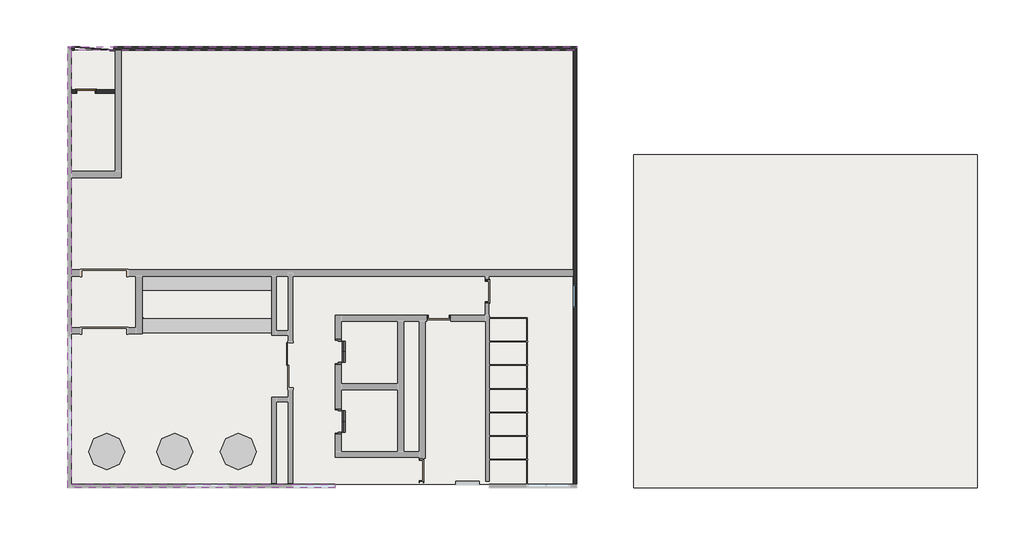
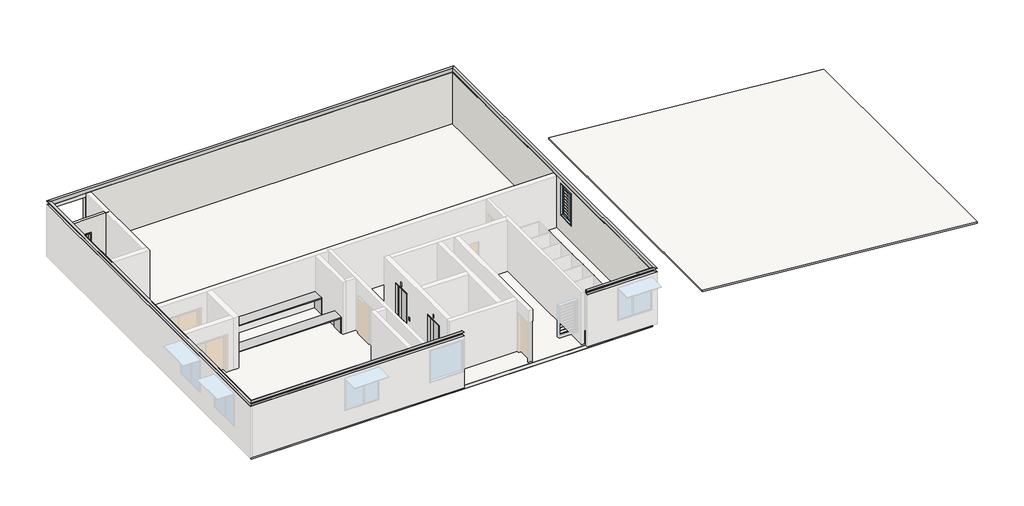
# One storey, part 2 of 2: 5 furniture elements, 4 proxies, 3 walls, 2 slabs, 1 door, 1 railing, 1 roof, 1 window.
"""IFC4 building model written with IfcOpenShell, lengths in millimetres."""

from ifc_helpers import new_model, si_unit, point, frame, frame_2d, origin, place, context, project, spatial, polyline, circle_curve, ellipse_curve, trimmed, segment, composite_curve, outline, extrude, faceted_brep, transform, mapped, element, save
from ifc_brep_helpers import plane_surface, revolved_surface, advanced_brep
from components import lift_single_entry_gen_type1_208d8e88, swing_metal_frame_single_dor_504ee371, furniture_600_deep_no_overhang_b67c900d, table_dining_round_w_chairs_fur1_1525mm_diameter_d4790072, window_louvre_window_louvre_105a682d

model = new_model("IFC4")

# Units and contexts
model_context = context("Model", 3, world=origin())
ifc_project = project(units=[si_unit("LENGTHUNIT", "METRE", prefix="MILLI")], contexts=[model_context])

# Site, building, storey
site = spatial("IfcSite", under=ifc_project)
building = spatial("IfcBuilding", under=site)
storey = spatial("IfcBuildingStorey", under=building, Name="5階", Elevation=42300.0)

# Proxies
placement = place(None, origin())
element("IfcBuildingElementProxy", 1, Name="Slab Edge_PFC'", ObjectType="Slab Edge_PFC'", at=placement, inside=storey, context=model_context, shape_type="AdvancedBrep", body=[
    advanced_brep(
    [(2519.6057353, 18560.0, 45400.0), (2519.6057353, 18560.0, 45200.0), (2369.6057353, 18710.0, 45200.0), (2369.6057353, 18710.0, 45212.0), (2501.6057353, 18578.0, 45212.0), (2513.6057353, 18566.0, 45224.0), (2513.6057353, 18566.0, 45376.0), (2501.6057353, 18578.0, 45388.0), (2369.6057353, 18710.0, 45388.0), (2369.6057353, 18710.0, 45400.0), (2519.6057353, 189.0898177, 45400.0), (2519.6057353, 189.0898177, 45200.0), (2369.6057353, 39.0898177, 45200.0), (2369.6057353, 39.0898177, 45212.0), (2501.6057353, 171.0898177, 45212.0), (2513.6057353, 183.0898177, 45224.0), (2513.6057353, 183.0898177, 45376.0), (2501.6057353, 171.0898177, 45388.0), (2369.6057353, 39.0898177, 45388.0), (2369.6057353, 39.0898177, 45400.0), (13694.6062665, 189.0898177, 45200.0), (13694.6062665, 189.0898177, 45400.0), (13694.6062665, 39.0898177, 45400.0), (13694.6062665, 39.0898177, 45388.0), (13694.6062665, 171.0898177, 45388.0), (13694.6062665, 183.0898177, 45376.0), (13694.6062665, 183.0898177, 45224.0), (13694.6062665, 171.0898177, 45212.0), (13694.6062665, 39.0898177, 45212.0), (13694.6062665, 39.0898177, 45200.0)],
    [
        (0, 1),
        (1, 2),
        (2, 3),
        (3, 4),
        (4, 5, ellipse_curve(frame((2501.6057353, 18578.0, 45224.0), z_axis=(-0.7071067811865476, -0.7071067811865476, 0.0), x_axis=(0.7071067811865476, -0.7071067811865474, 0.0)), 16.9705627, 12.0)),
        (5, 6),
        (6, 7, ellipse_curve(frame((2501.6057353, 18578.0, 45376.0), z_axis=(-0.7071067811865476, -0.7071067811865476, 0.0), x_axis=(0.7071067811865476, -0.7071067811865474, 0.0)), 16.9705627, 12.0)),
        (7, 8),
        (8, 9),
        (9, 0),
        (0, 10),
        (10, 11),
        (11, 1),
        (11, 12),
        (12, 2),
        (12, 13),
        (13, 3),
        (13, 14),
        (14, 4),
        (14, 15, ellipse_curve(frame((2501.6057353, 171.0898177, 45224.0), z_axis=(0.7071067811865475, -0.7071067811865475, 0.0), x_axis=(-0.7071067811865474, -0.7071067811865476, 0.0)), 16.9705627, 12.0)),
        (15, 5),
        (15, 16),
        (16, 6),
        (16, 17, ellipse_curve(frame((2501.6057353, 171.0898177, 45376.0), z_axis=(0.7071067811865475, -0.7071067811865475, 0.0), x_axis=(-0.7071067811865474, -0.7071067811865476, 0.0)), 16.9705627, 12.0)),
        (17, 7),
        (17, 18),
        (18, 8),
        (18, 19),
        (19, 9),
        (19, 10),
        (20, 21),
        (21, 22),
        (22, 23),
        (23, 24),
        (24, 25, circle_curve(frame((13694.6062665, 171.0898177, 45376.0), z_axis=(-1.0, 0.0, 0.0), x_axis=(0.0, -1.0, 0.0)), 12.0)),
        (25, 26),
        (26, 27, circle_curve(frame((13694.6062665, 171.0898177, 45224.0), z_axis=(-1.0, 0.0, 0.0), x_axis=(0.0, -1.0, 0.0)), 12.0)),
        (27, 28),
        (28, 29),
        (29, 20),
        (10, 21),
        (20, 11),
        (29, 12),
        (28, 13),
        (27, 14),
        (26, 15),
        (25, 16),
        (24, 17),
        (23, 18),
        (22, 19),
    ],
    [
        plane_surface(frame((2519.6057353, 18560.0, 45400.0), z_axis=(0.7071067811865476, 0.7071067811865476, 0.0), x_axis=(-0.7071067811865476, 0.7071067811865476, 0.0))),
        plane_surface(frame((2519.6057353, 18560.0, 45400.0), z_axis=(1.0, 0.0, 0.0), x_axis=(0.0, -1.0, 0.0))),
        plane_surface(frame((2519.6057353, 18560.0, 45200.0), z_axis=(0.0, 0.0, -1.0), x_axis=(0.0, -1.0, 0.0))),
        plane_surface(frame((2369.6057353, 18710.0, 45200.0), z_axis=(-1.0, 0.0, 0.0), x_axis=(0.0, -1.0, 0.0))),
        plane_surface(frame((2369.6057353, 18710.0, 45212.0), z_axis=(0.0, 0.0, 1.0), x_axis=(0.0, -1.0, 0.0))),
        revolved_surface(polyline([(2489.6057353, 159.08981773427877, 45224.0), (2489.6057353, 18589.999999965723, 45224.0)]), (2501.6057353, 18560.0, 45224.0), (0.0, -1.0, 0.0)),
        plane_surface(frame((2513.6057353, 18566.0, 45224.0), z_axis=(-1.0, 0.0, 0.0), x_axis=(0.0, -1.0, 0.0))),
        revolved_surface(polyline([(2489.6057353, 159.08981773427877, 45376.0), (2489.6057353, 18589.999999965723, 45376.0)]), (2501.6057353, 18560.0, 45376.0), (0.0, -1.0, 0.0)),
        plane_surface(frame((2501.6057353, 18578.0, 45388.0), z_axis=(0.0, 0.0, -1.0), x_axis=(0.0, -1.0, 0.0))),
        plane_surface(frame((2369.6057353, 18710.0, 45388.0), z_axis=(-1.0, 0.0, 0.0), x_axis=(0.0, -1.0, 0.0))),
        plane_surface(frame((2369.6057353, 18710.0, 45400.0), z_axis=(0.0, 0.0, 1.0), x_axis=(0.0, -1.0, 0.0))),
        plane_surface(frame((13694.6062665, 189.0898177, 45150.0), z_axis=(1.0, 0.0, 0.0), x_axis=(0.0, 1.0, 0.0))),
        plane_surface(frame((2519.6057353, 189.0898177, 45400.0), z_axis=(0.0, 1.0, 0.0), x_axis=(1.0, 0.0, 0.0))),
        plane_surface(frame((2519.6057353, 189.0898177, 45200.0), z_axis=(0.0, 0.0, -1.0), x_axis=(1.0, 0.0, 0.0))),
        plane_surface(frame((2369.6057353, 39.0898177, 45200.0), z_axis=(0.0, -1.0, 0.0), x_axis=(1.0, 0.0, 0.0))),
        plane_surface(frame((2369.6057353, 39.0898177, 45212.0), z_axis=(0.0, 0.0, 1.0), x_axis=(1.0, 0.0, 0.0))),
        revolved_surface(polyline([(13694.6062665, 159.0898177, 45224.0), (2489.6057353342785, 159.0898177, 45224.0)]), (2519.6057353, 171.0898177, 45224.0), (1.0, 0.0, 0.0)),
        plane_surface(frame((2513.6057353, 183.0898177, 45224.0), z_axis=(0.0, -1.0, 0.0), x_axis=(1.0, 0.0, 0.0))),
        revolved_surface(polyline([(13694.6062665, 159.0898177, 45376.0), (2489.6057353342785, 159.0898177, 45376.0)]), (2519.6057353, 171.0898177, 45376.0), (1.0, 0.0, 0.0)),
        plane_surface(frame((2501.6057353, 171.0898177, 45388.0), z_axis=(0.0, 0.0, -1.0), x_axis=(1.0, 0.0, 0.0))),
        plane_surface(frame((2369.6057353, 39.0898177, 45388.0), z_axis=(0.0, -1.0, 0.0), x_axis=(1.0, 0.0, 0.0))),
        plane_surface(frame((2369.6057353, 39.0898177, 45400.0), z_axis=(0.0, 0.0, 1.0), x_axis=(1.0, 0.0, 0.0))),
    ],
    [
        (0, [[1, 2, 3, 4, 5, 6, 7, 8, 9, 10]]),
        (1, [[-1, 11, 12, 13]]),
        (2, [[-2, -13, 14, 15]]),
        (3, [[-3, -15, 16, 17]]),
        (4, [[-4, -17, 18, 19]]),
        (5, [[-5, -19, 20, 21]]),
        (6, [[-6, -21, 22, 23]]),
        (7, [[-7, -23, 24, 25]]),
        (8, [[-8, -25, 26, 27]]),
        (9, [[-9, -27, 28, 29]]),
        (10, [[-10, -29, 30, -11]]),
        (11, [[31, 32, 33, 34, 35, 36, 37, 38, 39, 40]]),
        (12, [[-12, 41, -31, 42]]),
        (13, [[-14, -42, -40, 43]]),
        (14, [[-16, -43, -39, 44]]),
        (15, [[-18, -44, -38, 45]]),
        (16, [[-20, -45, -37, 46]]),
        (17, [[-22, -46, -36, 47]]),
        (18, [[-24, -47, -35, 48]]),
        (19, [[-26, -48, -34, 49]]),
        (20, [[-28, -49, -33, 50]]),
        (21, [[-30, -50, -32, -41]]),
    ],
),
    advanced_brep(
    [(20219.6062665, 189.0898177, 45400.0), (20219.6062665, 189.0898177, 45200.0), (20219.6062665, 39.0898177, 45200.0), (20219.6062665, 39.0898177, 45212.0), (20219.6062665, 171.0898177, 45212.0), (20219.6062665, 183.0898177, 45224.0), (20219.6062665, 183.0898177, 45376.0), (20219.6062665, 171.0898177, 45388.0), (20219.6062665, 39.0898177, 45388.0), (20219.6062665, 39.0898177, 45400.0), (23783.6171203, 189.0898177, 45400.0), (23783.6171203, 189.0898177, 45200.0), (23933.6171203, 39.0898177, 45200.0), (23933.6171203, 39.0898177, 45212.0), (23801.6171203, 171.0898177, 45212.0), (23789.6171203, 183.0898177, 45224.0), (23789.6171203, 183.0898177, 45376.0), (23801.6171203, 171.0898177, 45388.0), (23933.6171203, 39.0898177, 45388.0), (23933.6171203, 39.0898177, 45400.0), (23783.6171203, 18560.0, 45200.0), (23783.6171203, 18560.0, 45400.0), (23933.6171203, 18710.0, 45400.0), (23933.6171203, 18710.0, 45388.0), (23801.6171203, 18578.0, 45388.0), (23789.6171203, 18566.0, 45376.0), (23789.6171203, 18566.0, 45224.0), (23801.6171203, 18578.0, 45212.0), (23933.6171203, 18710.0, 45212.0), (23933.6171203, 18710.0, 45200.0)],
    [
        (0, 1),
        (1, 2),
        (2, 3),
        (3, 4),
        (4, 5, circle_curve(frame((20219.6062665, 171.0898177, 45224.0), z_axis=(1.0, 0.0, 0.0), x_axis=(0.0, -1.0, 0.0)), 12.0)),
        (5, 6),
        (6, 7, circle_curve(frame((20219.6062665, 171.0898177, 45376.0), z_axis=(1.0, 0.0, 0.0), x_axis=(0.0, -1.0, 0.0)), 12.0)),
        (7, 8),
        (8, 9),
        (9, 0),
        (0, 10),
        (10, 11),
        (11, 1),
        (11, 12),
        (12, 2),
        (12, 13),
        (13, 3),
        (13, 14),
        (14, 4),
        (14, 15, ellipse_curve(frame((23801.6171203, 171.0898177, 45224.0), z_axis=(0.7071067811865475, 0.7071067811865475, 0.0), x_axis=(0.7071067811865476, -0.7071067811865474, 0.0)), 16.9705627, 12.0)),
        (15, 5),
        (15, 16),
        (16, 6),
        (16, 17, ellipse_curve(frame((23801.6171203, 171.0898177, 45376.0), z_axis=(0.7071067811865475, 0.7071067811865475, 0.0), x_axis=(0.7071067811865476, -0.7071067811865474, 0.0)), 16.9705627, 12.0)),
        (17, 7),
        (17, 18),
        (18, 8),
        (18, 19),
        (19, 9),
        (19, 10),
        (20, 21),
        (21, 22),
        (22, 23),
        (23, 24),
        (24, 25, ellipse_curve(frame((23801.6171203, 18578.0, 45376.0), z_axis=(0.7071067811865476, -0.7071067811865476, 0.0), x_axis=(0.7071067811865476, 0.7071067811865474, 0.0)), 16.9705627, 12.0)),
        (25, 26),
        (26, 27, ellipse_curve(frame((23801.6171203, 18578.0, 45224.0), z_axis=(0.7071067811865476, -0.7071067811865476, 0.0), x_axis=(0.7071067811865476, 0.7071067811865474, 0.0)), 16.9705627, 12.0)),
        (27, 28),
        (28, 29),
        (29, 20),
        (10, 21),
        (20, 11),
        (29, 12),
        (28, 13),
        (27, 14),
        (26, 15),
        (25, 16),
        (24, 17),
        (23, 18),
        (22, 19),
    ],
    [
        plane_surface(frame((20219.6062665, 189.0898177, 45150.0), z_axis=(-1.0, 0.0, 0.0), x_axis=(0.0, 1.0, 0.0))),
        plane_surface(frame((20219.6062665, 189.0898177, 45400.0), z_axis=(0.0, 1.0, 0.0), x_axis=(1.0, 0.0, 0.0))),
        plane_surface(frame((20219.6062665, 189.0898177, 45200.0), z_axis=(0.0, 0.0, -1.0), x_axis=(1.0, 0.0, 0.0))),
        plane_surface(frame((20219.6062665, 39.0898177, 45200.0), z_axis=(0.0, -1.0, 0.0), x_axis=(1.0, 0.0, 0.0))),
        plane_surface(frame((20219.6062665, 39.0898177, 45212.0), z_axis=(0.0, 0.0, 1.0), x_axis=(1.0, 0.0, 0.0))),
        revolved_surface(polyline([(23813.617120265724, 159.0898177, 45224.0), (20219.6062665, 159.0898177, 45224.0)]), (20219.6062665, 171.0898177, 45224.0), (1.0, 0.0, 0.0)),
        plane_surface(frame((20219.6062665, 183.0898177, 45224.0), z_axis=(0.0, -1.0, 0.0), x_axis=(1.0, 0.0, 0.0))),
        revolved_surface(polyline([(23813.617120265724, 159.0898177, 45376.0), (20219.6062665, 159.0898177, 45376.0)]), (20219.6062665, 171.0898177, 45376.0), (1.0, 0.0, 0.0)),
        plane_surface(frame((20219.6062665, 171.0898177, 45388.0), z_axis=(0.0, 0.0, -1.0), x_axis=(1.0, 0.0, 0.0))),
        plane_surface(frame((20219.6062665, 39.0898177, 45388.0), z_axis=(0.0, -1.0, 0.0), x_axis=(1.0, 0.0, 0.0))),
        plane_surface(frame((20219.6062665, 39.0898177, 45400.0), z_axis=(0.0, 0.0, 1.0), x_axis=(1.0, 0.0, 0.0))),
        plane_surface(frame((23783.6171203, 18560.0, 45400.0), z_axis=(-0.7071067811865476, 0.7071067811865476, 0.0), x_axis=(-0.7071067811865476, -0.7071067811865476, 0.0))),
        plane_surface(frame((23783.6171203, 189.0898177, 45400.0), z_axis=(-1.0, 0.0, 0.0), x_axis=(0.0, 1.0, 0.0))),
        plane_surface(frame((23783.6171203, 189.0898177, 45200.0), z_axis=(0.0, 0.0, -1.0), x_axis=(0.0, 1.0, 0.0))),
        plane_surface(frame((23933.6171203, 39.0898177, 45200.0), z_axis=(1.0, 0.0, 0.0), x_axis=(0.0, 1.0, 0.0))),
        plane_surface(frame((23933.6171203, 39.0898177, 45212.0), z_axis=(0.0, 0.0, 1.0), x_axis=(0.0, 1.0, 0.0))),
        revolved_surface(polyline([(23813.6171203, 18589.999999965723, 45224.0), (23813.6171203, 159.0898177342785, 45224.0)]), (23801.6171203, 189.0898177, 45224.0), (0.0, 1.0, 0.0)),
        plane_surface(frame((23789.6171203, 183.0898177, 45224.0), z_axis=(1.0, 0.0, 0.0), x_axis=(0.0, 1.0, 0.0))),
        revolved_surface(polyline([(23813.6171203, 18589.999999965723, 45376.0), (23813.6171203, 159.0898177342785, 45376.0)]), (23801.6171203, 189.0898177, 45376.0), (0.0, 1.0, 0.0)),
        plane_surface(frame((23801.6171203, 171.0898177, 45388.0), z_axis=(0.0, 0.0, -1.0), x_axis=(0.0, 1.0, 0.0))),
        plane_surface(frame((23933.6171203, 39.0898177, 45388.0), z_axis=(1.0, 0.0, 0.0), x_axis=(0.0, 1.0, 0.0))),
        plane_surface(frame((23933.6171203, 39.0898177, 45400.0), z_axis=(0.0, 0.0, 1.0), x_axis=(0.0, 1.0, 0.0))),
    ],
    [
        (0, [[1, 2, 3, 4, 5, 6, 7, 8, 9, 10]]),
        (1, [[-1, 11, 12, 13]]),
        (2, [[-2, -13, 14, 15]]),
        (3, [[-3, -15, 16, 17]]),
        (4, [[-4, -17, 18, 19]]),
        (5, [[-5, -19, 20, 21]]),
        (6, [[-6, -21, 22, 23]]),
        (7, [[-7, -23, 24, 25]]),
        (8, [[-8, -25, 26, 27]]),
        (9, [[-9, -27, 28, 29]]),
        (10, [[-10, -29, 30, -11]]),
        (11, [[31, 32, 33, 34, 35, 36, 37, 38, 39, 40]]),
        (12, [[-12, 41, -31, 42]]),
        (13, [[-14, -42, -40, 43]]),
        (14, [[-16, -43, -39, 44]]),
        (15, [[-18, -44, -38, 45]]),
        (16, [[-20, -45, -37, 46]]),
        (17, [[-22, -46, -36, 47]]),
        (18, [[-24, -47, -35, 48]]),
        (19, [[-26, -48, -34, 49]]),
        (20, [[-28, -49, -33, 50]]),
        (21, [[-30, -50, -32, -41]]),
    ],
),
])
element("IfcBuildingElementProxy", 2, Name="Slab Edge_PFC'", ObjectType="Slab Edge_PFC'", at=placement, inside=storey, context=model_context, shape_type="AdvancedBrep", body=[
    advanced_brep(
    [(23783.6171203, 18560.0, 45400.0), (23783.6171203, 18560.0, 45200.0), (23933.6171203, 18710.0, 45200.0), (23933.6171203, 18710.0, 45212.0), (23801.6171203, 18578.0, 45212.0), (23789.6171203, 18566.0, 45224.0), (23789.6171203, 18566.0, 45376.0), (23801.6171203, 18578.0, 45388.0), (23933.6171203, 18710.0, 45388.0), (23933.6171203, 18710.0, 45400.0), (2519.6057353, 18560.0, 45400.0), (2369.6057353, 18710.0, 45400.0), (2369.6057353, 18710.0, 45388.0), (2501.6057353, 18578.0, 45388.0), (2513.6057353, 18566.0, 45376.0), (2513.6057353, 18566.0, 45224.0), (2501.6057353, 18578.0, 45212.0), (2369.6057353, 18710.0, 45212.0), (2369.6057353, 18710.0, 45200.0), (2519.6057353, 18560.0, 45200.0)],
    [
        (0, 1),
        (1, 2),
        (2, 3),
        (3, 4),
        (4, 5, ellipse_curve(frame((23801.6171203, 18578.0, 45224.0), z_axis=(-0.7071067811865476, 0.7071067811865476, 0.0), x_axis=(-0.7071067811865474, -0.7071067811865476, 0.0)), 16.9705627, 12.0)),
        (5, 6),
        (6, 7, ellipse_curve(frame((23801.6171203, 18578.0, 45376.0), z_axis=(-0.7071067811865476, 0.7071067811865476, 0.0), x_axis=(-0.7071067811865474, -0.7071067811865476, 0.0)), 16.9705627, 12.0)),
        (7, 8),
        (8, 9),
        (9, 0),
        (10, 11),
        (11, 12),
        (12, 13),
        (13, 14, ellipse_curve(frame((2501.6057353, 18578.0, 45376.0), z_axis=(0.7071067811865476, 0.7071067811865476, 0.0), x_axis=(-0.7071067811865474, 0.7071067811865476, 0.0)), 16.9705627, 12.0)),
        (14, 15),
        (15, 16, ellipse_curve(frame((2501.6057353, 18578.0, 45224.0), z_axis=(0.7071067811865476, 0.7071067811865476, 0.0), x_axis=(-0.7071067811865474, 0.7071067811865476, 0.0)), 16.9705627, 12.0)),
        (16, 17),
        (17, 18),
        (18, 19),
        (19, 10),
        (0, 10),
        (19, 1),
        (18, 2),
        (17, 3),
        (16, 4),
        (15, 5),
        (14, 6),
        (13, 7),
        (12, 8),
        (11, 9),
    ],
    [
        plane_surface(frame((23783.6171203, 18560.0, 45400.0), z_axis=(0.7071067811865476, -0.7071067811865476, 0.0), x_axis=(0.7071067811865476, 0.7071067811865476, 0.0))),
        plane_surface(frame((2519.6057353, 18560.0, 45400.0), z_axis=(-0.7071067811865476, -0.7071067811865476, 0.0), x_axis=(0.7071067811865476, -0.7071067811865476, 0.0))),
        plane_surface(frame((23783.6171203, 18560.0, 45400.0), z_axis=(0.0, -1.0, 0.0), x_axis=(-1.0, 0.0, 0.0))),
        plane_surface(frame((23783.6171203, 18560.0, 45200.0), z_axis=(0.0, 0.0, -1.0), x_axis=(-1.0, 0.0, 0.0))),
        plane_surface(frame((23933.6171203, 18710.0, 45200.0), z_axis=(0.0, 1.0, 0.0), x_axis=(-1.0, 0.0, 0.0))),
        plane_surface(frame((23933.6171203, 18710.0, 45212.0), z_axis=(0.0, 0.0, 1.0), x_axis=(-1.0, 0.0, 0.0))),
        revolved_surface(polyline([(2489.6057353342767, 18590.0, 45224.0), (23813.617120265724, 18590.0, 45224.0)]), (23783.6171203, 18578.0, 45224.0), (-1.0, 0.0, 0.0)),
        plane_surface(frame((23789.6171203, 18566.0, 45224.0), z_axis=(0.0, 1.0, 0.0), x_axis=(-1.0, 0.0, 0.0))),
        revolved_surface(polyline([(2489.6057353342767, 18590.0, 45376.0), (23813.617120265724, 18590.0, 45376.0)]), (23783.6171203, 18578.0, 45376.0), (-1.0, 0.0, 0.0)),
        plane_surface(frame((23801.6171203, 18578.0, 45388.0), z_axis=(0.0, 0.0, -1.0), x_axis=(-1.0, 0.0, 0.0))),
        plane_surface(frame((23933.6171203, 18710.0, 45388.0), z_axis=(0.0, 1.0, 0.0), x_axis=(-1.0, 0.0, 0.0))),
        plane_surface(frame((23933.6171203, 18710.0, 45400.0), z_axis=(0.0, 0.0, 1.0), x_axis=(-1.0, 0.0, 0.0))),
    ],
    [
        (0, [[1, 2, 3, 4, 5, 6, 7, 8, 9, 10]]),
        (1, [[11, 12, 13, 14, 15, 16, 17, 18, 19, 20]]),
        (2, [[-1, 21, -20, 22]]),
        (3, [[-2, -22, -19, 23]]),
        (4, [[-3, -23, -18, 24]]),
        (5, [[-4, -24, -17, 25]]),
        (6, [[-5, -25, -16, 26]]),
        (7, [[-6, -26, -15, 27]]),
        (8, [[-7, -27, -14, 28]]),
        (9, [[-8, -28, -13, 29]]),
        (10, [[-9, -29, -12, 30]]),
        (11, [[-10, -30, -11, -21]]),
    ],
),
])
lift_single_entry_gen_type1_shape = lift_single_entry_gen_type1_208d8e88(model_context)
element("IfcBuildingElementProxy", 3, Name="Lift_Single Entry_GEN : Type1", ObjectType="Lift_Single Entry_GEN : Type1", at=placement, inside=storey, context=model_context, shape_type="MappedRepresentation", body=[
    mapped(lift_single_entry_gen_type1_shape, transform((13819.6062665, 5591.0857154, 42300.0), x_axis=(0.0, 1.0, 0.0), y_axis=(-1.0, 0.0, 0.0), z_axis=(0.0, 0.0, 1.0))),
])
element("IfcBuildingElementProxy", 4, Name="Lift_Single Entry_GEN : Type1", ObjectType="Lift_Single Entry_GEN : Type1", at=placement, inside=storey, context=model_context, shape_type="MappedRepresentation", body=[
    mapped(lift_single_entry_gen_type1_shape, transform((13819.6062665, 2641.0857154, 42300.0), x_axis=(0.0, 1.0, 0.0), y_axis=(-1.0, 0.0, 0.0), z_axis=(0.0, 0.0, 1.0))),
])

# Door
swing_metal_frame_single_dor_shape = swing_metal_frame_single_dor_504ee371(model_context)
element("IfcDoor", 5, ObjectType="Swing_Metal Frame_Single_DOR : 2040h x 820 (2110x920 STUD)", at=placement, inside=storey, context=model_context, shape_type="MappedRepresentation", body=[
    mapped(swing_metal_frame_single_dor_shape, transform((3144.6057353, 16824.7819979, 42300.0), x_axis=(1.0, 0.0, 0.0), y_axis=(0.0, 1.0, 0.0), z_axis=(0.0, 0.0, 1.0))),
])

# Furniture
furniture_600_deep_no_overhang_shape = furniture_600_deep_no_overhang_b67c900d(model_context)
element("IfcFurniture", 6, ObjectType="Benchtop_Optional Hole_I Shaped_CAS : 600 Deep_No Overhang", at=placement, inside=storey, context=model_context, shape_type="MappedRepresentation", body=[
    mapped(furniture_600_deep_no_overhang_shape, transform((6669.9054088, 8996.2680774, 42300.0), x_axis=(1.0, 0.0, 0.0), y_axis=(0.0, 1.0, 0.0), z_axis=(0.0, 0.0, 1.0))),
])
element("IfcFurniture", 7, ObjectType="Benchtop_Optional Hole_I Shaped_CAS : 600 Deep_No Overhang", at=placement, inside=storey, context=model_context, shape_type="MappedRepresentation", body=[
    mapped(furniture_600_deep_no_overhang_shape, transform((6669.9054088, 7196.2680774, 42300.0), x_axis=(1.0, 0.0, 0.0), y_axis=(0.0, 1.0, 0.0), z_axis=(0.0, 0.0, 1.0))),
])
table_dining_round_w_chairs_fur1_1525mm_diameter_shape = table_dining_round_w_chairs_fur1_1525mm_diameter_d4790072(model_context)
element("IfcFurniture", 8, ObjectType="Table_Dining Round w Chairs_FUR1 : 1525mm Diameter", at=placement, inside=storey, context=model_context, shape_type="MappedRepresentation", body=[
    mapped(table_dining_round_w_chairs_fur1_1525mm_diameter_shape, transform((9490.9242993, 1759.8786885, 42300.0), x_axis=(1.0, 0.0, 0.0), y_axis=(0.0, 1.0, 0.0), z_axis=(0.0, 0.0, 1.0))),
])
element("IfcFurniture", 9, ObjectType="Table_Dining Round w Chairs_FUR1 : 1525mm Diameter", at=placement, inside=storey, context=model_context, shape_type="MappedRepresentation", body=[
    mapped(table_dining_round_w_chairs_fur1_1525mm_diameter_shape, transform((6785.9826319, 1759.8786885, 42300.0), x_axis=(1.0, 0.0, 0.0), y_axis=(0.0, 1.0, 0.0), z_axis=(0.0, 0.0, 1.0))),
])
element("IfcFurniture", 10, ObjectType="Table_Dining Round w Chairs_FUR1 : 1525mm Diameter", at=placement, inside=storey, context=model_context, shape_type="MappedRepresentation", body=[
    mapped(table_dining_round_w_chairs_fur1_1525mm_diameter_shape, transform((3905.923768, 1759.8786885, 42300.0), x_axis=(1.0, 0.0, 0.0), y_axis=(0.0, 1.0, 0.0), z_axis=(0.0, 0.0, 1.0))),
])

# Railing
element("IfcRailing", 11, ObjectType="900mm", at=placement, inside=storey, context=model_context, shape_type="SweptSolid", body=[
    extrude(outline(composite_curve([segment(trimmed(circle_curve(frame_2d((0.0, 20.0)), 20.0), [point((-20.0, 20.0))], [point((20.0, 20.0))], False, "CARTESIAN"), True, "CONTINUOUS"), segment(trimmed(circle_curve(frame_2d((0.0, 20.0)), 20.0), [point((20.0, 20.0))], [point((-20.0, 20.0))], False, "CARTESIAN"), True, "CONTINUOUS")], self_intersect=False)), frame((4384.6057353, 18560.0, 43200.0), z_axis=(-0.996886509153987, 0.07884978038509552, 0.0), x_axis=(0.07884978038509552, 0.996886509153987, 0.0)), (0.0, 0.0, 1.0), 1775.5280905),
    extrude(outline(polyline([(4303.9341194, 18561.3651897), (4304.7226172, 18571.3340548), (4314.6914823, 18570.545557), (4313.9029845, 18560.5766919), (4303.9341194, 18561.3651897)])), frame((0.0, 0.0, 42300.0), z_axis=(0.0, 0.0, 1.0), x_axis=(1.0, 0.0, 0.0)), (0.0, 0.0, 1.0), 860.0),
    extrude(outline(polyline([(4204.2454685, 18569.2501677), (4205.0339663, 18579.2190328), (4215.0028314, 18578.430535), (4214.2143335, 18568.4616699), (4204.2454685, 18569.2501677)])), frame((0.0, 0.0, 42300.0), z_axis=(0.0, 0.0, 1.0), x_axis=(1.0, 0.0, 0.0)), (0.0, 0.0, 1.0), 860.0),
    extrude(outline(polyline([(4104.5568175, 18577.1351458), (4105.3453153, 18587.1040109), (4115.3141804, 18586.3155131), (4114.5256826, 18576.346648), (4104.5568175, 18577.1351458)])), frame((0.0, 0.0, 42300.0), z_axis=(0.0, 0.0, 1.0), x_axis=(1.0, 0.0, 0.0)), (0.0, 0.0, 1.0), 860.0),
    extrude(outline(polyline([(4004.8681666, 18585.0201238), (4005.6566644, 18594.9889889), (4015.6255295, 18594.2004911), (4014.8370317, 18584.231626), (4004.8681666, 18585.0201238)])), frame((0.0, 0.0, 42300.0), z_axis=(0.0, 0.0, 1.0), x_axis=(1.0, 0.0, 0.0)), (0.0, 0.0, 1.0), 860.0),
    extrude(outline(polyline([(3905.1795157, 18592.9051019), (3905.9680135, 18602.8739669), (3915.9368786, 18602.0854691), (3915.1483808, 18592.1166041), (3905.1795157, 18592.9051019)])), frame((0.0, 0.0, 42300.0), z_axis=(0.0, 0.0, 1.0), x_axis=(1.0, 0.0, 0.0)), (0.0, 0.0, 1.0), 860.0),
    extrude(outline(polyline([(3805.4908648, 18600.7900799), (3806.2793626, 18610.758945), (3816.2482277, 18609.9704472), (3815.4597299, 18600.0015821), (3805.4908648, 18600.7900799)])), frame((0.0, 0.0, 42300.0), z_axis=(0.0, 0.0, 1.0), x_axis=(1.0, 0.0, 0.0)), (0.0, 0.0, 1.0), 860.0),
    extrude(outline(polyline([(3705.8022139, 18608.6750579), (3706.5907117, 18618.643923), (3716.5595768, 18617.8554252), (3715.771079, 18607.8865601), (3705.8022139, 18608.6750579)])), frame((0.0, 0.0, 42300.0), z_axis=(0.0, 0.0, 1.0), x_axis=(1.0, 0.0, 0.0)), (0.0, 0.0, 1.0), 860.0),
    extrude(outline(polyline([(3606.113563, 18616.560036), (3606.9020608, 18626.5289011), (3616.8709259, 18625.7404033), (3616.0824281, 18615.7715382), (3606.113563, 18616.560036)])), frame((0.0, 0.0, 42300.0), z_axis=(0.0, 0.0, 1.0), x_axis=(1.0, 0.0, 0.0)), (0.0, 0.0, 1.0), 860.0),
    extrude(outline(polyline([(3506.424912, 18624.445014), (3507.2134099, 18634.4138791), (3517.1822749, 18633.6253813), (3516.3937771, 18623.6565162), (3506.424912, 18624.445014)])), frame((0.0, 0.0, 42300.0), z_axis=(0.0, 0.0, 1.0), x_axis=(1.0, 0.0, 0.0)), (0.0, 0.0, 1.0), 860.0),
    extrude(outline(polyline([(3406.7362611, 18632.329992), (3407.5247589, 18642.2988571), (3417.493624, 18641.5103593), (3416.7051262, 18631.5414942), (3406.7362611, 18632.329992)])), frame((0.0, 0.0, 42300.0), z_axis=(0.0, 0.0, 1.0), x_axis=(1.0, 0.0, 0.0)), (0.0, 0.0, 1.0), 860.0),
    extrude(outline(polyline([(3307.0476102, 18640.2149701), (3307.836108, 18650.1838352), (3317.8049731, 18649.3953374), (3317.0164753, 18639.4264723), (3307.0476102, 18640.2149701)])), frame((0.0, 0.0, 42300.0), z_axis=(0.0, 0.0, 1.0), x_axis=(1.0, 0.0, 0.0)), (0.0, 0.0, 1.0), 860.0),
    extrude(outline(polyline([(3207.3589593, 18648.0999481), (3208.1474571, 18658.0688132), (3218.1163222, 18657.2803154), (3217.3278244, 18647.3114503), (3207.3589593, 18648.0999481)])), frame((0.0, 0.0, 42300.0), z_axis=(0.0, 0.0, 1.0), x_axis=(1.0, 0.0, 0.0)), (0.0, 0.0, 1.0), 860.0),
    extrude(outline(polyline([(3107.6703084, 18655.9849262), (3108.4588062, 18665.9537913), (3118.4276713, 18665.1652935), (3117.6391735, 18655.1964284), (3107.6703084, 18655.9849262)])), frame((0.0, 0.0, 42300.0), z_axis=(0.0, 0.0, 1.0), x_axis=(1.0, 0.0, 0.0)), (0.0, 0.0, 1.0), 860.0),
    extrude(outline(polyline([(3007.9816575, 18663.8699042), (3008.7701553, 18673.8387693), (3018.7390204, 18673.0502715), (3017.9505226, 18663.0814064), (3007.9816575, 18663.8699042)])), frame((0.0, 0.0, 42300.0), z_axis=(0.0, 0.0, 1.0), x_axis=(1.0, 0.0, 0.0)), (0.0, 0.0, 1.0), 860.0),
    extrude(outline(polyline([(2908.2930066, 18671.7548822), (2909.0815044, 18681.7237473), (2919.0503695, 18680.9352495), (2918.2618716, 18670.9663844), (2908.2930066, 18671.7548822)])), frame((0.0, 0.0, 42300.0), z_axis=(0.0, 0.0, 1.0), x_axis=(1.0, 0.0, 0.0)), (0.0, 0.0, 1.0), 860.0),
    extrude(outline(polyline([(2808.6043556, 18679.6398603), (2809.3928534, 18689.6087254), (2819.3617185, 18688.8202276), (2818.5732207, 18678.8513625), (2808.6043556, 18679.6398603)])), frame((0.0, 0.0, 42300.0), z_axis=(0.0, 0.0, 1.0), x_axis=(1.0, 0.0, 0.0)), (0.0, 0.0, 1.0), 860.0),
    extrude(outline(polyline([(2708.9157047, 18687.5248383), (2709.7042025, 18697.4937034), (2719.6730676, 18696.7052056), (2718.8845698, 18686.7363405), (2708.9157047, 18687.5248383)])), frame((0.0, 0.0, 42300.0), z_axis=(0.0, 0.0, 1.0), x_axis=(1.0, 0.0, 0.0)), (0.0, 0.0, 1.0), 860.0),
    extrude(outline(polyline([(4369.2581887, 18556.1983142), (4370.0466865, 18566.1671793), (4380.0155516, 18565.3786814), (4379.2270538, 18555.4098164), (4369.2581887, 18556.1983142)])), frame((0.0, 0.0, 42300.0), z_axis=(0.0, 0.0, 1.0), x_axis=(1.0, 0.0, 0.0)), (0.0, 0.0, 1.0), 860.0),
    extrude(outline(polyline([(2619.1959189, 18694.6213186), (2619.9844167, 18704.5901836), (2629.9532818, 18703.8016858), (2629.164784, 18693.8328207), (2619.1959189, 18694.6213186)])), frame((0.0, 0.0, 42300.0), z_axis=(0.0, 0.0, 1.0), x_axis=(1.0, 0.0, 0.0)), (0.0, 0.0, 1.0), 860.0),
])

# Roof
element("IfcRoof", 12, ObjectType="Metal Deck_Kingspan_Horiz", at=placement, inside=storey, context=model_context, shape_type="SweptSolid", body=[
    extrude(outline(polyline([(42054.8754045, 40882.1585166), (43328.7103454, 26322.1585166), (43241.3780195, 26322.1585166), (41967.5430786, 40882.1585166), (42054.8754045, 40882.1585166)])), frame((0.0, 39.0898177, 0.0), z_axis=(0.0, 1.0, 0.0), x_axis=(0.0, 0.0, 1.0)), (0.0, 0.0, 1.0), 14090.9315551),
])

# Slabs
element("IfcSlab", 13, ObjectType="Concept Floor_200mm", at=placement, inside=storey, context=model_context, shape_type="SweptSolid", body=[
    extrude(outline(polyline([(2519.6057353, 18560.0), (23783.6171203, 18560.0), (23783.6171203, 189.0898177), (2519.6057353, 189.0898177), (2519.6057353, 18560.0)])), frame((0.0, 0.0, 42100.0), z_axis=(0.0, 0.0, 1.0), x_axis=(1.0, 0.0, 0.0)), (0.0, 0.0, 1.0), 200.0),
])
element("IfcSlab", 14, ObjectType="Concept Floor_200mm", at=placement, inside=storey, context=model_context, shape_type="SweptSolid", body=[
    extrude(outline(polyline([(2519.6057353, 18560.0), (23758.6171203, 18560.0), (23758.6171203, 189.0898177), (2519.6057353, 189.0898177), (2519.6057353, 18560.0)])), frame((0.0, 0.0, 42100.0), z_axis=(0.0, 0.0, 1.0), x_axis=(1.0, 0.0, 0.0)), (0.0, 0.0, 1.0), 200.0),
])

# Walls
element("IfcWall", 15, ObjectType="Whte Paint Finish", at=placement, inside=storey, context=model_context, shape_type="SweptSolid", body=[
    extrude(outline(polyline([(42300.0, 4544.6057353), (45200.0, 4544.6057353), (45200.0, 2519.6057353), (42300.0, 2519.6057353), (42300.0, 2704.6057353), (44390.0, 2704.6057353), (44390.0, 3584.6057353), (42300.0, 3584.6057353), (42300.0, 4544.6057353)])), frame((0.0, 16749.7819979, 0.0), z_axis=(0.0, 1.0, 0.0), x_axis=(0.0, 0.0, 1.0)), (0.0, 0.0, 1.0), 150.0),
])
element("IfcWall", 16, ObjectType="Whte Paint Finish", at=placement, inside=storey, context=model_context, shape_type="Brep", body=[
    faceted_brep([(2519.6057353, 18560.0, 45200.0), (4384.6057353, 18560.0, 45200.0), (4634.6057353, 18560.0, 45200.0), (23773.6171203, 18560.0, 45200.0), (23923.6171203, 18560.0, 45200.0), (23923.6171203, 18710.0, 45200.0), (2519.6057353, 18710.0, 45200.0), (2519.6057353, 18560.0, 42300.0), (2639.6057353, 18560.0, 42300.0), (2639.6057353, 18560.0, 45000.0), (4319.22362, 18560.0, 45000.0), (4319.22362, 18560.0, 42300.0), (4384.6057353, 18560.0, 42300.0), (4634.6057353, 18560.0, 42300.0), (23773.6171203, 18560.0, 42300.0), (23923.6171203, 18560.0, 42300.0), (23923.6171203, 18710.0, 42300.0), (4319.22362, 18710.0, 42300.0), (4319.22362, 18710.0, 45000.0), (2639.6057353, 18710.0, 45000.0), (2639.6057353, 18710.0, 42300.0), (2519.6057353, 18710.0, 42300.0)], [[[0, 1, 2, 3, 4, 5, 6]], [[4, 3, 2, 1, 0, 7, 8, 9, 10, 11, 12, 13, 14, 15]], [[6, 5, 16, 17, 18, 19, 20, 21]], [[16, 15, 14, 13, 12, 11, 17]], [[7, 21, 20, 8]], [[19, 9, 8, 20]], [[10, 18, 17, 11]], [[9, 19, 18, 10]], [[7, 0, 6, 21]], [[4, 15, 16, 5]]]),
])
element("IfcWall", 17, ObjectType="Whte Paint Finish", at=placement, inside=storey, context=model_context, shape_type="Brep", body=[
    faceted_brep([(23923.6171203, 180.0, 45200.0), (23923.6171203, 18560.0, 45200.0), (23773.6171203, 18560.0, 45200.0), (23773.6171203, 9266.2680774, 45200.0), (23773.6171203, 8996.2680774, 45200.0), (23773.6171203, 180.0, 45200.0), (23923.6171203, 180.0, 42300.0), (23923.6171203, 18560.0, 42300.0), (23923.6171203, 8646.2738694, 43200.0), (23923.6171203, 7646.2738694, 43200.0), (23923.6171203, 7646.2738694, 45000.0), (23923.6171203, 8646.2738694, 45000.0), (23773.6171203, 180.0, 42300.0), (23773.6171203, 18560.0, 42300.0), (23773.6171203, 9266.2680774, 42300.0), (23773.6171203, 8996.2680774, 42300.0), (23773.6171203, 8646.2738694, 43200.0), (23773.6171203, 8646.2738694, 45000.0), (23773.6171203, 7646.2738694, 45000.0), (23773.6171203, 7646.2738694, 43200.0)], [[[0, 1, 2, 3, 4, 5]], [[6, 7, 1, 0], [8, 9, 10, 11]], [[12, 5, 4, 3, 2, 13, 14, 15], [16, 17, 18, 19]], [[7, 6, 12, 15, 14, 13]], [[6, 0, 5, 12]], [[1, 7, 13, 2]], [[17, 16, 8, 11]], [[18, 17, 11, 10]], [[19, 18, 10, 9]], [[16, 19, 9, 8]]]),
])

# Window
window_louvre_window_louvre_shape = window_louvre_window_louvre_105a682d(model_context)
element("IfcWindow", 18, ObjectType="Window_Louvre : Window_Louvre", at=placement, inside=storey, context=model_context, shape_type="MappedRepresentation", body=[
    mapped(window_louvre_window_louvre_shape, transform((23848.6171203, 8146.2738694, 42600.0), x_axis=(0.0, -1.0, 0.0), y_axis=(1.0, 0.0, 0.0), z_axis=(0.0, 0.0, 1.0))),
])

save(model, "model.ifc")
